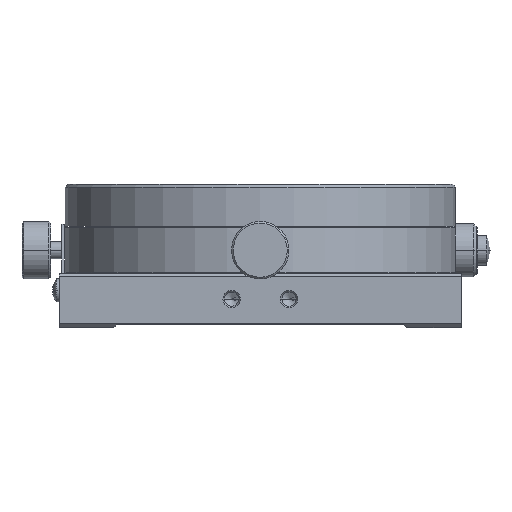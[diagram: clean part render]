
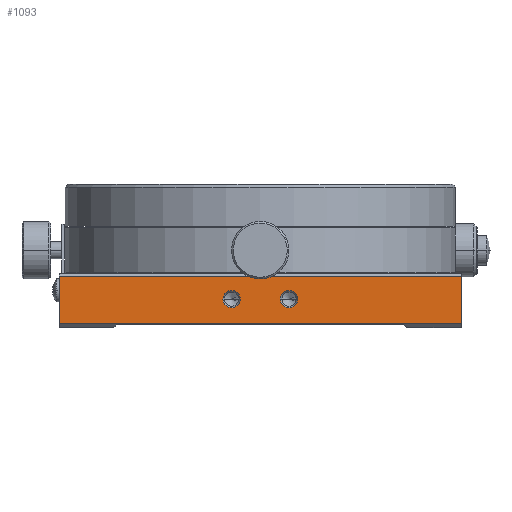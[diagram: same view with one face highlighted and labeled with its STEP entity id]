
A CAD part, left-side view. The second image highlights one B-rep face of the part: STEP entity #1093.
In plain terms, the highlighted planar face has unit normal (-1, 0, 0).
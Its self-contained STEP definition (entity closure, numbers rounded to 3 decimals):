
#1025 = VERTEX_POINT ( 'NONE', #10719 ) ;
#1027 = EDGE_CURVE ( 'NONE', #1025, #1028, #10718, .T. ) ;
#1028 = VERTEX_POINT ( 'NONE', #10714 ) ;
#1034 = VERTEX_POINT ( 'NONE', #10709 ) ;
#1077 = ORIENTED_EDGE ( 'NONE', *, *, #1027, .F. ) ;
#1078 = ORIENTED_EDGE ( 'NONE', *, *, #1090, .F. ) ;
#1079 = ORIENTED_EDGE ( 'NONE', *, *, #1080, .T. ) ;
#1080 = EDGE_CURVE ( 'NONE', #1034, #1081, #10831, .T. ) ;
#1081 = VERTEX_POINT ( 'NONE', #10827 ) ;
#1082 = ORIENTED_EDGE ( 'NONE', *, *, #1083, .T. ) ;
#1083 = EDGE_CURVE ( 'NONE', #1081, #1028, #10826, .T. ) ;
#1090 = EDGE_CURVE ( 'NONE', #1034, #1025, #10812, .T. ) ;
#1093 = ADVANCED_FACE ( 'NONE', ( #10808, #10807, #10806 ), #10805, .T. ) ;
#1094 = EDGE_LOOP ( 'NONE', ( #1095, #1097 ) ) ;
#1095 = ORIENTED_EDGE ( 'NONE', *, *, #1096, .F. ) ;
#1096 = EDGE_CURVE ( 'NONE', #5352, #5349, #10864, .T. ) ;
#1097 = ORIENTED_EDGE ( 'NONE', *, *, #5351, .F. ) ;
#1098 = EDGE_LOOP ( 'NONE', ( #1099, #1101 ) ) ;
#1099 = ORIENTED_EDGE ( 'NONE', *, *, #1100, .F. ) ;
#1100 = EDGE_CURVE ( 'NONE', #5391, #5388, #10859, .T. ) ;
#1101 = ORIENTED_EDGE ( 'NONE', *, *, #5390, .F. ) ;
#1102 = EDGE_LOOP ( 'NONE', ( #1077, #1078, #1079, #1082 ) ) ;
#5349 = VERTEX_POINT ( 'NONE', #18212 ) ;
#5351 = EDGE_CURVE ( 'NONE', #5349, #5352, #18211, .T. ) ;
#5352 = VERTEX_POINT ( 'NONE', #18206 ) ;
#5388 = VERTEX_POINT ( 'NONE', #18260 ) ;
#5390 = EDGE_CURVE ( 'NONE', #5388, #5391, #18320, .T. ) ;
#5391 = VERTEX_POINT ( 'NONE', #18316 ) ;
#10709 = CARTESIAN_POINT ( 'NONE',  ( -35., -35., 0.8 ) ) ;
#10714 = CARTESIAN_POINT ( 'NONE',  ( -35., 35., 9. ) ) ;
#10715 = DIRECTION ( 'NONE',  ( 0., 0., 1. ) ) ;
#10716 = VECTOR ( 'NONE', #10715, 1000. ) ;
#10717 = CARTESIAN_POINT ( 'NONE',  ( -35., 35., 0.8 ) ) ;
#10718 = LINE ( 'NONE', #10717, #10716 ) ;
#10719 = CARTESIAN_POINT ( 'NONE',  ( -35., 35., 0.8 ) ) ;
#10803 = CARTESIAN_POINT ( 'NONE',  ( -35., -35., 0.8 ) ) ;
#10804 = AXIS2_PLACEMENT_3D ( 'NONE', #10803, #10866, #10865 ) ;
#10805 = PLANE ( 'NONE',  #10804 ) ;
#10806 = FACE_OUTER_BOUND ( 'NONE', #1102, .T. ) ;
#10807 = FACE_BOUND ( 'NONE', #1098, .T. ) ;
#10808 = FACE_BOUND ( 'NONE', #1094, .T. ) ;
#10809 = DIRECTION ( 'NONE',  ( 0., 1., 0. ) ) ;
#10810 = VECTOR ( 'NONE', #10809, 1000. ) ;
#10811 = CARTESIAN_POINT ( 'NONE',  ( -35., -35., 0.8 ) ) ;
#10812 = LINE ( 'NONE', #10811, #10810 ) ;
#10823 = DIRECTION ( 'NONE',  ( 0., 1., 0. ) ) ;
#10824 = VECTOR ( 'NONE', #10823, 1000. ) ;
#10825 = CARTESIAN_POINT ( 'NONE',  ( -35., -35., 9. ) ) ;
#10826 = LINE ( 'NONE', #10825, #10824 ) ;
#10827 = CARTESIAN_POINT ( 'NONE',  ( -35., -35., 9. ) ) ;
#10828 = DIRECTION ( 'NONE',  ( 0., 0., 1. ) ) ;
#10829 = VECTOR ( 'NONE', #10828, 1000. ) ;
#10830 = CARTESIAN_POINT ( 'NONE',  ( -35., -35., 0.8 ) ) ;
#10831 = LINE ( 'NONE', #10830, #10829 ) ;
#10855 = DIRECTION ( 'NONE',  ( 0., -1., 0. ) ) ;
#10856 = DIRECTION ( 'NONE',  ( -1., 0., 0. ) ) ;
#10857 = CARTESIAN_POINT ( 'NONE',  ( -35., 5., 5. ) ) ;
#10858 = AXIS2_PLACEMENT_3D ( 'NONE', #10857, #10856, #10855 ) ;
#10859 = CIRCLE ( 'NONE', #10858, 1.5 ) ;
#10860 = DIRECTION ( 'NONE',  ( 0., -1., 0. ) ) ;
#10861 = DIRECTION ( 'NONE',  ( -1., 0., 0. ) ) ;
#10862 = CARTESIAN_POINT ( 'NONE',  ( -35., -5., 5. ) ) ;
#10863 = AXIS2_PLACEMENT_3D ( 'NONE', #10862, #10861, #10860 ) ;
#10864 = CIRCLE ( 'NONE', #10863, 1.5 ) ;
#10865 = DIRECTION ( 'NONE',  ( 0., 1., 0. ) ) ;
#10866 = DIRECTION ( 'NONE',  ( -1., 0., 0. ) ) ;
#18206 = CARTESIAN_POINT ( 'NONE',  ( -35., -6.5, 5. ) ) ;
#18207 = DIRECTION ( 'NONE',  ( 0., -1., 0. ) ) ;
#18208 = DIRECTION ( 'NONE',  ( -1., 0., 0. ) ) ;
#18209 = CARTESIAN_POINT ( 'NONE',  ( -35., -5., 5. ) ) ;
#18210 = AXIS2_PLACEMENT_3D ( 'NONE', #18209, #18208, #18207 ) ;
#18211 = CIRCLE ( 'NONE', #18210, 1.5 ) ;
#18212 = CARTESIAN_POINT ( 'NONE',  ( -35., -3.5, 5. ) ) ;
#18259 = CARTESIAN_POINT ( 'NONE',  ( -35., 5., 5. ) ) ;
#18260 = CARTESIAN_POINT ( 'NONE',  ( -35., 6.5, 5. ) ) ;
#18316 = CARTESIAN_POINT ( 'NONE',  ( -35., 3.5, 5. ) ) ;
#18317 = DIRECTION ( 'NONE',  ( 0., -1., 0. ) ) ;
#18318 = DIRECTION ( 'NONE',  ( -1., 0., 0. ) ) ;
#18319 = AXIS2_PLACEMENT_3D ( 'NONE', #18259, #18318, #18317 ) ;
#18320 = CIRCLE ( 'NONE', #18319, 1.5 ) ;
